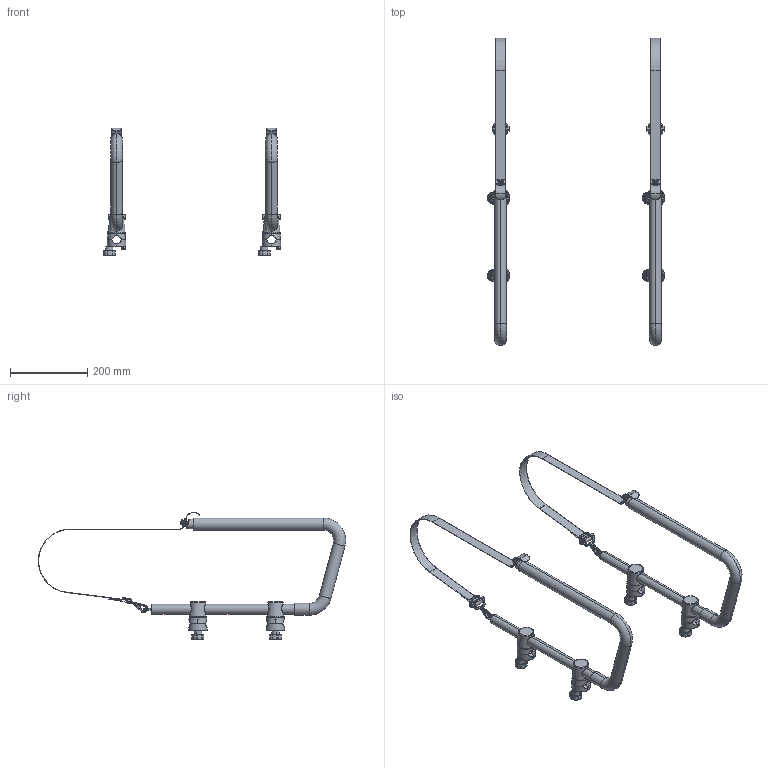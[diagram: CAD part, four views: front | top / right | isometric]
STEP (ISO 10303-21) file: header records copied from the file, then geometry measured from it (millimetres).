
FILE_DESCRIPTION (( 'STEP AP203' ), '1' );
FILE_NAME ('4236500.STEP', '2021-04-29T09:54:56', ( '' ), ( '' ), 'SwSTEP 2.0', 'SolidWorks 2018', '' );
FILE_SCHEMA (( 'CONFIG_CONTROL_DESIGN' ));
Length unit declared in the file: millimetre
Products named in the file (12): 4116700-C03 ; OPL41-0002_Maniglia_Nera; 4136500-parte2; 4236500-parte1; 4236500-parte5; 4236500_1; 4236500; 4236500-parte3; 4236500-parte6^4116700-C03 ; 09.250.20_Moschettone in acciaio; A2.912-06X030; 4236500-parte4
Assembly tree (15 placements, depth 4):
  4236500
    4236500_1  x2
      4236500-parte1
      4136500-parte2
      4116700-C03 
        4236500-parte6^4116700-C03 
      4236500-parte4
      A2.912-06X030
      OPL41-0002_Maniglia_Nera
      4236500-parte3
      09.250.20_Moschettone in acciaio
      4236500-parte5
Bounding box: 458.43 x 793.15 x 329.74 mm (x, y, z)
Volume: 1726010.2 mm3; surface area: 614382.2 mm2
Topology: 28 solids, 28 shells, 2438 faces, 6452 edges, 3888 vertices
Faces by surface type: plane 956, cylinder 648, bspline 550, torus 216, cone 44, sphere 24
Entity records: 34891 total; most frequent: CARTESIAN_POINT 16786, ORIENTED_EDGE 3788, DIRECTION 3359, EDGE_CURVE 1894, AXIS2_PLACEMENT_3D 1389, VERTEX_POINT 1160, EDGE_LOOP 798, CIRCLE 790
